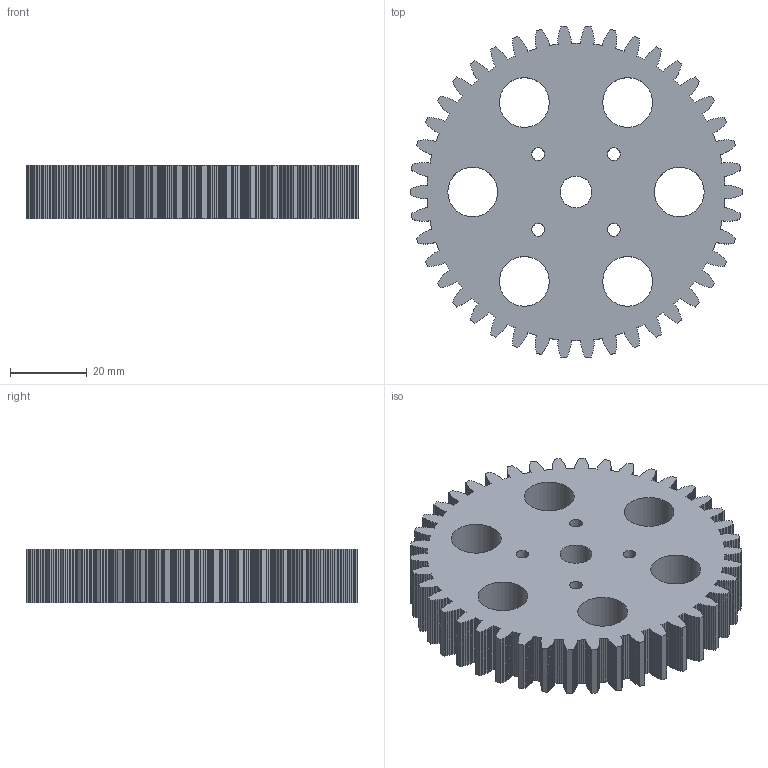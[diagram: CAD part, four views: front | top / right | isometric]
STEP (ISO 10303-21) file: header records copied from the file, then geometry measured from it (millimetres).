
FILE_DESCRIPTION(('Open CASCADE Model'),'2;1');
FILE_NAME('Open CASCADE Shape Model','2026-10-02T23:27:33',('Author'),( 'Open CASCADE'),'Open CASCADE STEP processor 7.9','Open CASCADE 7.9' ,'Unknown');
FILE_SCHEMA(('AUTOMOTIVE_DESIGN { 1 0 10303 214 1 1 1 1 }'));
Products named in the file (1): Open CASCADE STEP translator 7.9 1
Bounding box: 86.79 x 86.65 x 14 mm (x, y, z)
Volume: 61775.7 mm3; surface area: 20934.7 mm2
Topology: 1 solids, 1 shells, 1063 faces, 3183 edges, 2122 vertices
Faces by surface type: plane 1052, cylinder 11
Full cylindrical faces by diameter (mm): 3.3 x4, 8.3 x1, 13 x6
Entity records: 76558 total; most frequent: CARTESIAN_POINT 12867, DIRECTION 11677, LINE 9505, VECTOR 9505, ORIENTED_EDGE 6366, PCURVE 6366, DEFINITIONAL_REPRESENTATION 6366, EDGE_CURVE 3183
